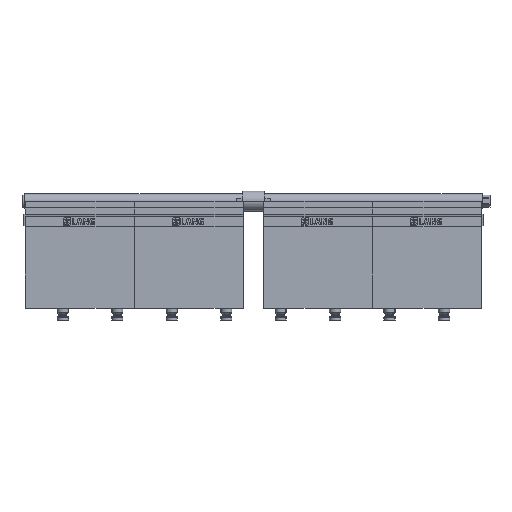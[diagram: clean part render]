
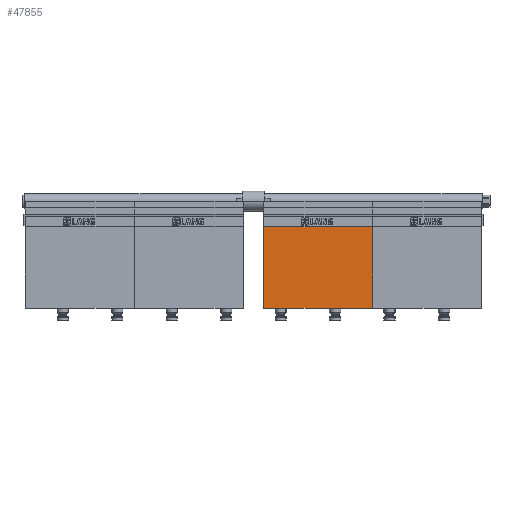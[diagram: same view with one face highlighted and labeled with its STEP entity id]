
A CAD part, top view. The second image highlights one B-rep face of the part: STEP entity #47855.
In plain terms, the highlighted planar face has unit normal (0, 0, 1).
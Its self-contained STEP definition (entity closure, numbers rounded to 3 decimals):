
#13552 = VERTEX_POINT ( 'NONE', #85062 ) ;
#16008 = VERTEX_POINT ( 'NONE', #30965 ) ;
#17978 = DIRECTION ( 'NONE',  ( 1., 0., 0. ) ) ;
#19644 = AXIS2_PLACEMENT_3D ( 'NONE', #76425, #90758, #40326 ) ;
#21555 = LINE ( 'NONE', #86863, #89922 ) ;
#22638 = FACE_OUTER_BOUND ( 'NONE', #63406, .T. ) ;
#24675 = CARTESIAN_POINT ( 'NONE',  ( 17.99, 143.799, 62.8 ) ) ;
#28933 = EDGE_CURVE ( 'NONE', #13552, #71569, #52554, .T. ) ;
#30877 = CARTESIAN_POINT ( 'NONE',  ( 210.2, 0., 62.8 ) ) ;
#30965 = CARTESIAN_POINT ( 'NONE',  ( 209.99, 143.799, 62.8 ) ) ;
#38899 = VECTOR ( 'NONE', #75766, 1000. ) ;
#40326 = DIRECTION ( 'NONE',  ( -1., 0., 0. ) ) ;
#44333 = ORIENTED_EDGE ( 'NONE', *, *, #47291, .F. ) ;
#47291 = EDGE_CURVE ( 'NONE', #16008, #13552, #21555, .T. ) ;
#47855 = ADVANCED_FACE ( 'NONE', ( #22638 ), #51970, .F. ) ;
#51970 = PLANE ( 'NONE',  #19644 ) ;
#52554 = LINE ( 'NONE', #30877, #59128 ) ;
#53700 = CARTESIAN_POINT ( 'NONE',  ( 17.99, 189., 62.8 ) ) ;
#56042 = VECTOR ( 'NONE', #17978, 1000. ) ;
#58329 = DIRECTION ( 'NONE',  ( -1., 0., 0. ) ) ;
#59128 = VECTOR ( 'NONE', #58329, 1000. ) ;
#63406 = EDGE_LOOP ( 'NONE', ( #44333, #91070, #63993, #71670 ) ) ;
#63993 = ORIENTED_EDGE ( 'NONE', *, *, #88166, .T. ) ;
#66695 = DIRECTION ( 'NONE',  ( 0., -1., 0. ) ) ;
#69199 = VERTEX_POINT ( 'NONE', #73908 ) ;
#71569 = VERTEX_POINT ( 'NONE', #93455 ) ;
#71670 = ORIENTED_EDGE ( 'NONE', *, *, #28933, .F. ) ;
#73908 = CARTESIAN_POINT ( 'NONE',  ( 17.99, 143.799, 62.8 ) ) ;
#75766 = DIRECTION ( 'NONE',  ( 0., -1., 0. ) ) ;
#76425 = CARTESIAN_POINT ( 'NONE',  ( 210.2, -0.2, 62.8 ) ) ;
#85062 = CARTESIAN_POINT ( 'NONE',  ( 209.99, 0., 62.8 ) ) ;
#86792 = EDGE_CURVE ( 'NONE', #69199, #16008, #90434, .T. ) ;
#86863 = CARTESIAN_POINT ( 'NONE',  ( 209.99, 189., 62.8 ) ) ;
#88166 = EDGE_CURVE ( 'NONE', #69199, #71569, #90101, .T. ) ;
#89922 = VECTOR ( 'NONE', #66695, 1000. ) ;
#90101 = LINE ( 'NONE', #53700, #38899 ) ;
#90434 = LINE ( 'NONE', #24675, #56042 ) ;
#90758 = DIRECTION ( 'NONE',  ( 0., 0., -1. ) ) ;
#91070 = ORIENTED_EDGE ( 'NONE', *, *, #86792, .F. ) ;
#93455 = CARTESIAN_POINT ( 'NONE',  ( 17.99, 0., 62.8 ) ) ;
